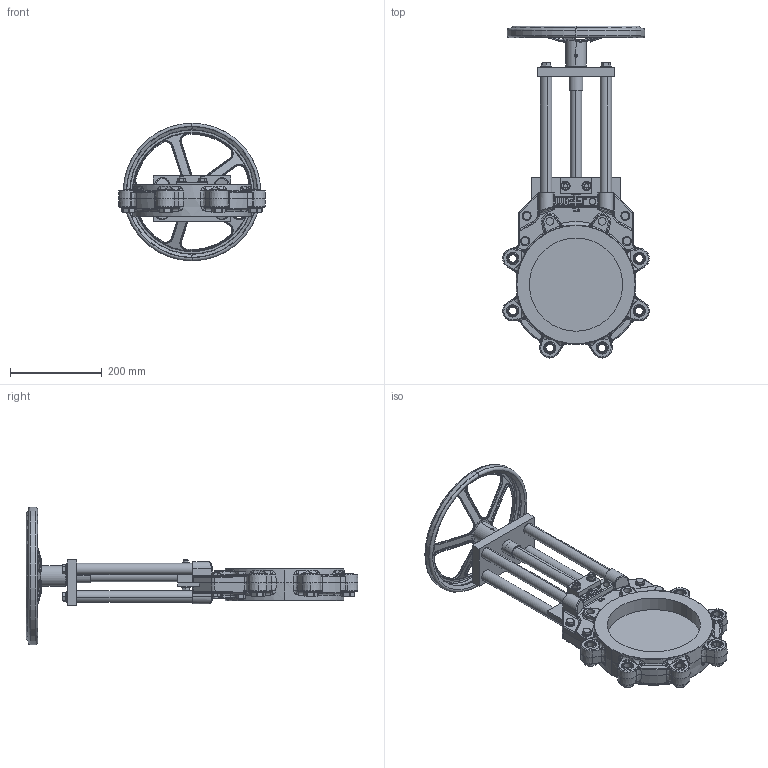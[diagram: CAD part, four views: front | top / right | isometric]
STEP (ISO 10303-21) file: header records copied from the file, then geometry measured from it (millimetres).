
FILE_DESCRIPTION (( 'STEP AP214' ), '1' );
FILE_NAME ('VLA DN 0200.STEP', '2022-09-20T06:57:29', ( '' ), ( '' ), 'SwSTEP 2.0', 'SolidWorks 2021', '' );
FILE_SCHEMA (( 'AUTOMOTIVE_DESIGN' ));
Length unit declared in the file: millimetre
Products named in the file (1): VLA DN 0200
Bounding box: 319.69 x 723.34 x 300 mm (x, y, z)
Volume: 4436335.3 mm3; surface area: 706710.8 mm2
Topology: 1 solids, 28 shells, 2144 faces, 5104 edges, 3004 vertices
Faces by surface type: plane 609, cylinder 549, bspline 450, cone 357, torus 174, sphere 5
Entity records: 105735 total; most frequent: CARTESIAN_POINT 36237, ORIENTED_EDGE 9988, DIRECTION 9083, EDGE_CURVE 4994, AXIS2_PLACEMENT_3D 3716, VERTEX_POINT 3004, EDGE_LOOP 2316, UNCERTAINTY_MEASURE_WITH_UNIT 2147
